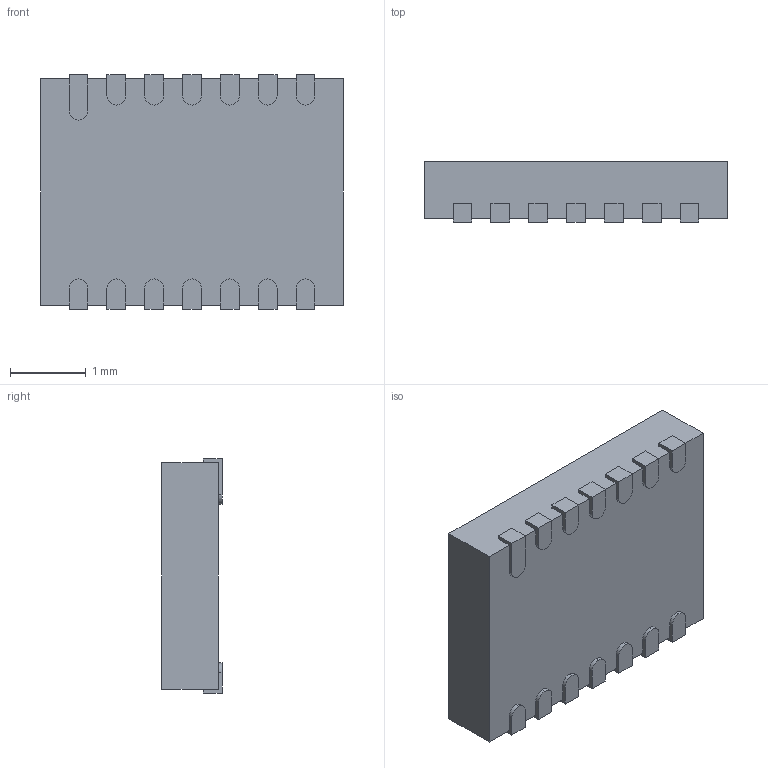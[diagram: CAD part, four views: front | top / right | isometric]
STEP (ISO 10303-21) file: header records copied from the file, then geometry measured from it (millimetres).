
FILE_DESCRIPTION (( 'STEP AP214' ), '1' );
FILE_NAME ( 'SON50P400X300X80-14.STEP', '2014-04-11T12:31:21', ( '' ), ( '' ), 'FPX Expert 2013', 'PCB Libraries', '' );
FILE_SCHEMA (( 'AUTOMOTIVE_DESIGN' ));
Length unit declared in the file: millimetre
Products named in the file (1): SON50P400X300X80-14
Bounding box: 4 x 0.8 x 3.1 mm (x, y, z)
Volume: 9.1 mm3; surface area: 39.8 mm2
Topology: 15 solids, 15 shells, 135 faces, 312 edges, 208 vertices
Faces by surface type: plane 105, cylinder 28, torus 2
Entity records: 4371 total; most frequent: CARTESIAN_POINT 656, DIRECTION 646, ORIENTED_EDGE 624, EDGE_CURVE 312, VECTOR 250, LINE 250, VERTEX_POINT 208, AXIS2_PLACEMENT_3D 198
